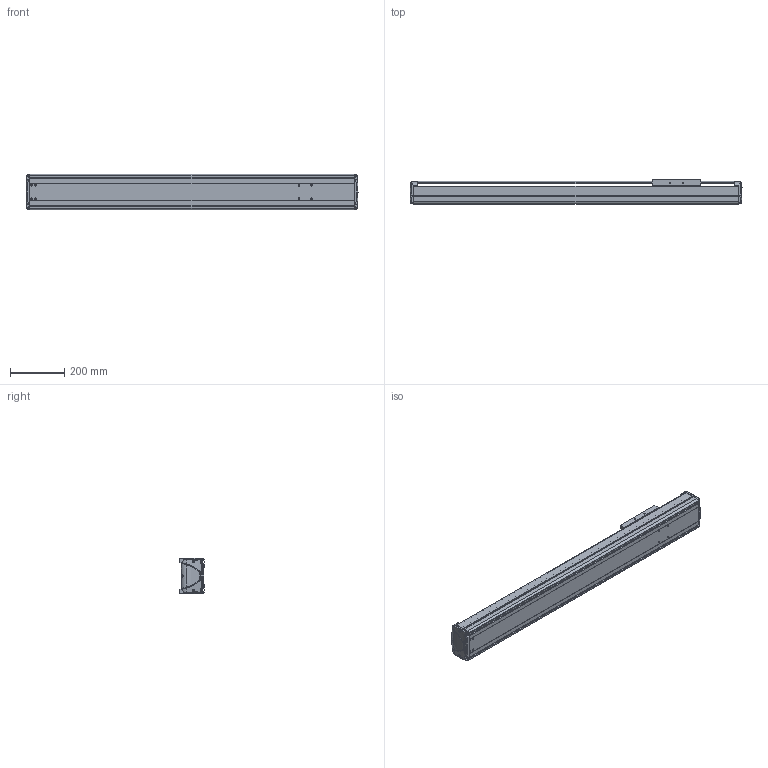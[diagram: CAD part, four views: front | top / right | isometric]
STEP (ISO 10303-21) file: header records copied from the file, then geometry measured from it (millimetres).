
FILE_DESCRIPTION((''),'2;1');
FILE_NAME('BE30E-ST-L_B-85_IGS_PRT','2017-06-17T',(' '),(''),'PRO/ENGINEER BY PARAMETRIC TECHNOLOGY CORPORATION, 2015030','PRO/ENGINEER BY PARAMETRIC TECHNOLOGY CORPORATION, 2015030','');
FILE_SCHEMA(('CONFIG_CONTROL_DESIGN'));
Length unit declared in the file: millimetre
Products named in the file (1): BE30E-ST-L_B-85_IGS_PRT
Bounding box: 1225 x 89.8 x 130 mm (x, y, z)
Volume: 3790032.3 mm3; surface area: 1483911.5 mm2
Topology: 3 solids, 90 shells, 1382 faces, 3728 edges, 2440 vertices
Faces by surface type: cylinder 635, plane 596, bspline 55, torus 42, cone 30, sphere 24
Entity records: 46502 total; most frequent: CARTESIAN_POINT 11631, DIRECTION 7196, ORIENTED_EDGE 7070, EDGE_CURVE 3708, AXIS2_PLACEMENT_3D 2610, VERTEX_POINT 2440, VECTOR 1976, LINE 1976
